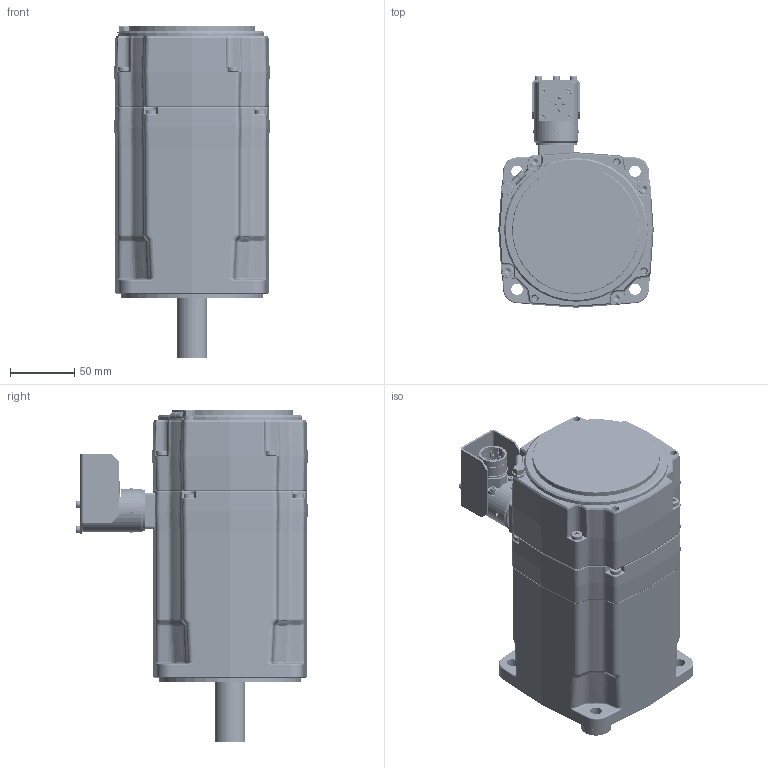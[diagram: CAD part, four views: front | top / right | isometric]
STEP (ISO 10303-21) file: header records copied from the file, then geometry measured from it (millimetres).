
FILE_DESCRIPTION((''),'2;1');
FILE_NAME('EY620EYR7010_ASM','2017-09-29T',('pf73167'),(''),'PRO/ENGINEER BY PARAMETRIC TECHNOLOGY CORPORATION, 2009400','PRO/ENGINEER BY PARAMETRIC TECHNOLOGY CORPORATION, 2009400','');
FILE_SCHEMA(('CONFIG_CONTROL_DESIGN'));
Length unit declared in the file: millimetre
Products named in the file (42): 344187P0020; 5116P1315; 301026P0030; 1150P0412; 344185P0001; 344182P0001; 344212P0001; 344182P0001_ASM; 220087P0013; 344186R0001_ASM; 5116P1319; 1645P0018; 1711P0019; 344181P0001; 344226R2000; 344562P0001; 344570P0001_ENROULE; 344229R2000_ASM; 344183P0006; 344184R2008_ASM; 1143P0515; 5320P0028; 5340P0002; 344191P0022; 1642P0105; 6620P0014; 1145P0508; 345359P0002; 5340P0124; 5340P0125; 1150P0204; 345359P0001; 1170P0042; 220132P1010_0001; 220132P1010_0002; 220132P0111; 220132P0120; 220132P1010_ASM; 345359P0003; 1150P0305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
Assembly tree (96 placements, depth 4):
  EY620EYR7010_ASM
    344187P0020
    5116P1315
    301026P0030
    1150P0412  x3
    344186R0001_ASM
      344185P0001
      344182P0001_ASM
        344182P0001
        344212P0001  x2
      220087P0013  x20
    5116P1319
    1645P0018  x2
    1711P0019
    344184R2008_ASM
      344229R2000_ASM
        344181P0001
        344226R2000  x6
        344562P0001  x2
        344570P0001_ENROULE  x2
      344183P0006
    1143P0515  x8
    5320P0028
    5340P0002  x2
    344191P0022
    1642P0105
    6620P0014
    1145P0508
    345359R1010_800_ASM
      345359P0002
      5340P0124
      5340P0125
      1150P0204  x8
      345359P0001
      1170P0042  x4
      220132P1010_ASM
        220132P1010_0001
        220132P1010_0002
        220132P0111  x4
        220132P0120  x3
      345359P0003
      1150P0305  x3
Bounding box: 121 x 180.2 x 258.6 mm (x, y, z)
Volume: 1608334.3 mm3; surface area: 603298.4 mm2
Topology: 94 solids, 113 shells, 5859 faces, 14132 edges, 8603 vertices
Faces by surface type: cylinder 1980, plane 1835, bspline 954, cone 678, torus 361, sphere 31, extrusion 20
Entity records: 144575 total; most frequent: CARTESIAN_POINT 53766, ORIENTED_EDGE 19132, DIRECTION 18382, EDGE_CURVE 9566, AXIS2_PLACEMENT_3D 6919, VERTEX_POINT 5953, VECTOR 4544, LINE 4524
